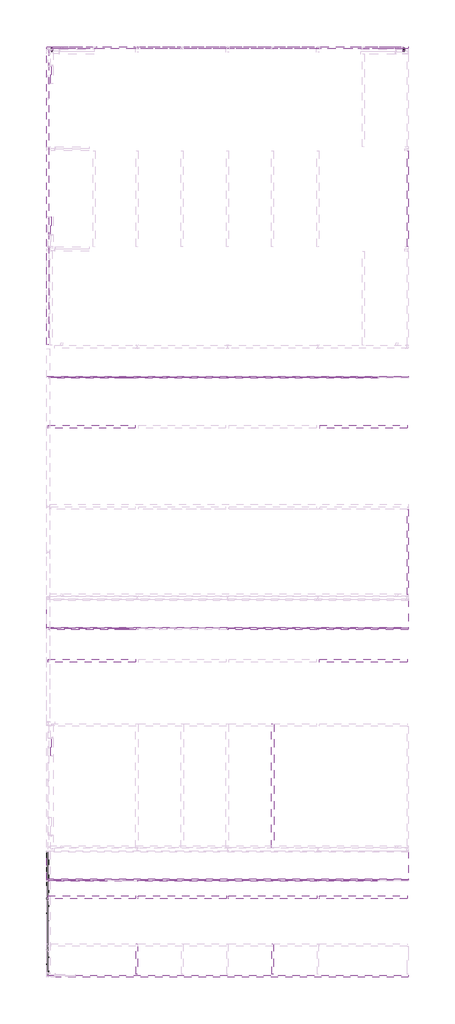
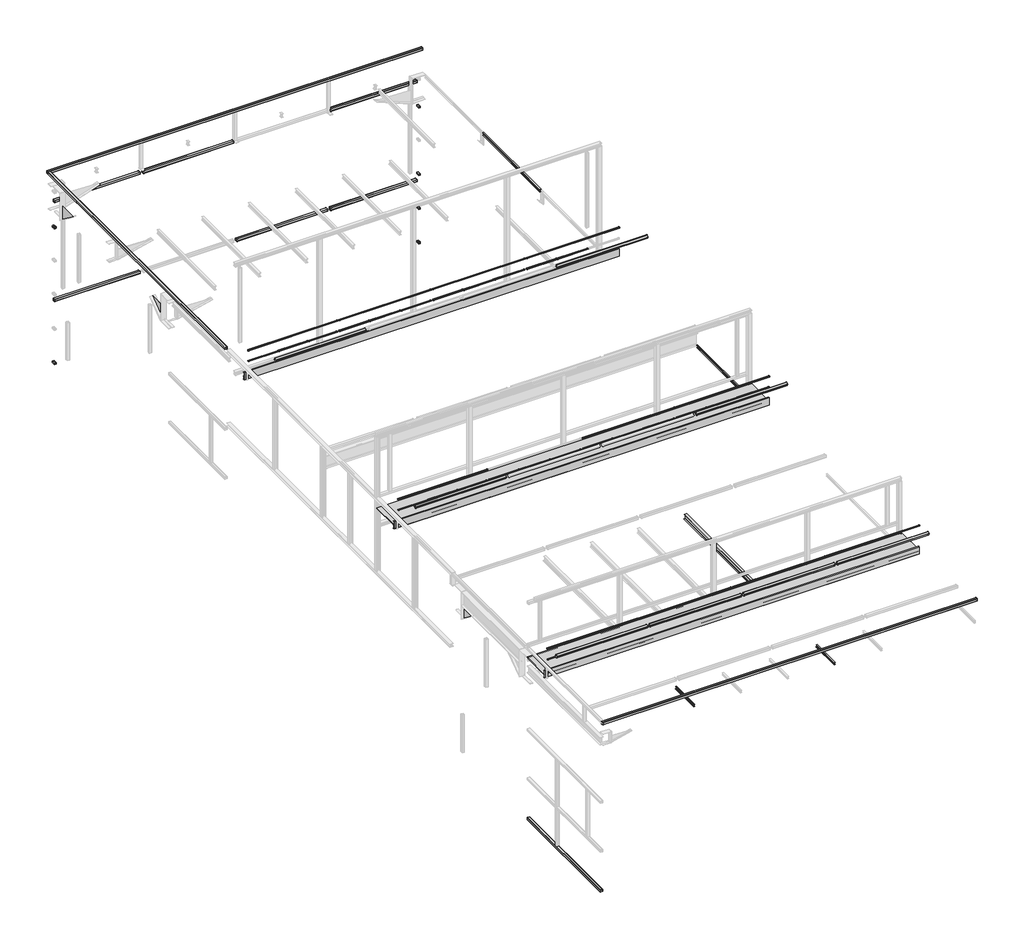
# One storey, part 2 of 3: 84 beams.
"""IFC4 building model written with IfcOpenShell, lengths in millimetres."""

from ifc_helpers import new_model, si_unit, origin, place, context, project, spatial, transform, mapped, element, save
from components import beam_8d1f7939, beam_f081dd8b, beam_00c90e81, beam_52587db2, beam_3c5574f7, beam_9d30ba23, beam_bcc38eae, beam_3ef0ea6d, beam_33f13721, beam_90fe456c, beam_c4069fb1, beam_5e6e5a75, beam_ceff8ac1, beam_697c9d13, beam_6ba09a8e, beam_d5a7796e, beam_9e802669, beam_19b4b193, beam_e0c5ccff, beam_a21e0780, beam_6ff974c0, beam_2da98b8c, beam_9f132adf, beam_f5f7d51a, beam_622f740f, beam_ca8ddc8e, beam_1cf54445, beam_9c2aa71d, beam_e8c89f98, beam_a0843e49, beam_48dc5296, beam_a76aa42f, beam_a7fee71c, lisse_137119_lisse_137119_684511ae, lisse_147336_lisse_147336_a30cddbf, lisse_150913_lisse_150913_6b22b6c6, lisse_154798_lisse_154798_789d9ca1, lisse_161773_lisse_161773_46e09ef6, lisse_167749_lisse_167749_6ca213e3, lisse_175470_lisse_175470_d40fd8f1, main_courante_102739_main_courante_102739_ed40c3bb, main_courante_103459_main_courante_103459_5b2239d3, main_courante_104179_main_courante_104179_2a7896ee, main_courante_106497_main_courante_106497_5a7e78d0, main_courante_107846_main_courante_107846_ca8920af, main_courante_111581_main_courante_111581_bf0b8dc7, main_courante_112658_main_courante_112658_0cbb24a0, main_courante_114007_main_courante_114007_b38bcc6f, main_courante_116886_main_courante_116886_96e47c2b, main_courante_117606_main_courante_117606_9041653b, main_courante_119182_main_courante_119182_d67acb24, main_courante_120758_main_courante_120758_3dafa615, main_courante_122277_main_courante_122277_c7d23ae7, main_courante_124136_main_courante_124136_9aaa94e9, main_courante_124856_main_courante_124856_ec8ec56a, main_courante_125576_main_courante_125576_99327f67, main_courante_126653_main_courante_126653_25b81309, main_courante_128631_main_courante_128631_6130c191, main_courante_129351_main_courante_129351_a9303f10, main_courante_130071_main_courante_130071_77d759bd, main_courante_131919_main_courante_131919_cccd8bc6, main_courante_132809_main_courante_132809_a57e08fc, main_courante_133529_main_courante_133529_69ff0020, main_courante_135269_main_courante_135269_6928d659, main_courante_69063_main_courante_69063_7cb552a2, main_courante_70327_main_courante_70327_6c495c5d, main_courante_72135_main_courante_72135_73440e9b, main_courante_73127_main_courante_73127_70c79c41, main_courante_74119_main_courante_74119_2d6b85a2, main_courante_75967_main_courante_75967_3d3f35de, main_courante_76840_main_courante_76840_90c7b925, main_courante_78104_main_courante_78104_3e1761f4, main_courante_78824_main_courante_78824_5afea3ef, main_courante_80757_main_courante_80757_1e9869e7, main_courante_81477_main_courante_81477_c8573a09, main_courante_82826_main_courante_82826_9067a228, main_courante_83546_main_courante_83546_907d9709, main_courante_85609_main_courante_85609_dbe0c0d3, main_courante_86329_main_courante_86329_4c8f75e1, main_courante_91005_main_courante_91005_c8c57120, main_courante_93210_main_courante_93210_54ef18eb, main_courante_94202_main_courante_94202_9cc526ed, main_courante_97353_main_courante_97353_180c7f68, main_courante_99558_main_courante_99558_ac463c1f

model = new_model("IFC4")

# Units and contexts
model_context = context("Model", 3, world=origin())
ifc_project = project(units=[si_unit("LENGTHUNIT", "METRE", prefix="MILLI")], contexts=[model_context])

# Site, building, storey
site = spatial("IfcSite", under=ifc_project)
building = spatial("IfcBuilding", under=site)
storey = spatial("IfcBuildingStorey", under=building, Name="__", Elevation=10.0)

# Beams
placement = place(None, origin())
beam_shape = beam_8d1f7939(model_context)
element("IfcBeam", 1, ObjectType="Caillebotis 70429 : Caillebotis 70429", at=placement, inside=storey, context=model_context, shape_type="MappedRepresentation", body=[
    mapped(beam_shape, transform((0.0, 0.0, 0.0), x_axis=(1.0, 0.0, 0.0), y_axis=(0.0, 1.0, 0.0), z_axis=(0.0, 0.0, 1.0))),
])
beam_2_shape = beam_f081dd8b(model_context)
element("IfcBeam", 2, ObjectType=" 76120 :  76120", at=placement, inside=storey, context=model_context, shape_type="MappedRepresentation", body=[
    mapped(beam_2_shape, transform((0.0, 0.0, 0.0), x_axis=(1.0, 0.0, 0.0), y_axis=(0.0, 1.0, 0.0), z_axis=(0.0, 0.0, 1.0))),
])
beam_3_shape = beam_00c90e81(model_context)
element("IfcBeam", 3, ObjectType=" 89469 :  89469", at=placement, inside=storey, context=model_context, shape_type="MappedRepresentation", body=[
    mapped(beam_3_shape, transform((0.0, 0.0, 0.0), x_axis=(1.0, 0.0, 0.0), y_axis=(0.0, 1.0, 0.0), z_axis=(0.0, 0.0, 1.0))),
])
beam_4_shape = beam_52587db2(model_context)
element("IfcBeam", 4, ObjectType="Caillebotis 95290 : Caillebotis 95290", at=placement, inside=storey, context=model_context, shape_type="MappedRepresentation", body=[
    mapped(beam_4_shape, transform((0.0, 0.0, 0.0), x_axis=(1.0, 0.0, 0.0), y_axis=(0.0, 1.0, 0.0), z_axis=(0.0, 0.0, 1.0))),
])
beam_5_shape = beam_3c5574f7(model_context)
element("IfcBeam", 5, ObjectType=" 105777 :  105777", at=placement, inside=storey, context=model_context, shape_type="MappedRepresentation", body=[
    mapped(beam_5_shape, transform((0.0, 0.0, 0.0), x_axis=(1.0, 0.0, 0.0), y_axis=(0.0, 1.0, 0.0), z_axis=(0.0, 0.0, 1.0))),
])
beam_6_shape = beam_9d30ba23(model_context)
element("IfcBeam", 6, ObjectType=" 121557 :  121557", at=placement, inside=storey, context=model_context, shape_type="MappedRepresentation", body=[
    mapped(beam_6_shape, transform((0.0, 0.0, 0.0), x_axis=(1.0, 0.0, 0.0), y_axis=(0.0, 1.0, 0.0), z_axis=(0.0, 0.0, 1.0))),
])
beam_7_shape = beam_bcc38eae(model_context)
element("IfcBeam", 7, ObjectType=" 123416 :  123416", at=placement, inside=storey, context=model_context, shape_type="MappedRepresentation", body=[
    mapped(beam_7_shape, transform((0.0, 0.0, 0.0), x_axis=(1.0, 0.0, 0.0), y_axis=(0.0, 1.0, 0.0), z_axis=(0.0, 0.0, 1.0))),
])
beam_8_shape = beam_3ef0ea6d(model_context)
element("IfcBeam", 8, ObjectType=" 132089 :  132089", at=placement, inside=storey, context=model_context, shape_type="MappedRepresentation", body=[
    mapped(beam_8_shape, transform((0.0, 0.0, 0.0), x_axis=(1.0, 0.0, 0.0), y_axis=(0.0, 1.0, 0.0), z_axis=(0.0, 0.0, 1.0))),
])
beam_9_shape = beam_33f13721(model_context)
element("IfcBeam", 9, ObjectType=" 135356 :  135356", at=placement, inside=storey, context=model_context, shape_type="MappedRepresentation", body=[
    mapped(beam_9_shape, transform((0.0, 0.0, 0.0), x_axis=(1.0, 0.0, 0.0), y_axis=(0.0, 1.0, 0.0), z_axis=(0.0, 0.0, 1.0))),
])
beam_10_shape = beam_90fe456c(model_context)
element("IfcBeam", 10, ObjectType="Buton 136212 : Buton 136212", at=placement, inside=storey, context=model_context, shape_type="MappedRepresentation", body=[
    mapped(beam_10_shape, transform((0.0, 0.0, 0.0), x_axis=(1.0, 0.0, 0.0), y_axis=(0.0, 1.0, 0.0), z_axis=(0.0, 0.0, 1.0))),
])
beam_11_shape = beam_c4069fb1(model_context)
element("IfcBeam", 11, ObjectType="Buton 141550 : Buton 141550", at=placement, inside=storey, context=model_context, shape_type="MappedRepresentation", body=[
    mapped(beam_11_shape, transform((0.0, 0.0, 0.0), x_axis=(1.0, 0.0, 0.0), y_axis=(0.0, 1.0, 0.0), z_axis=(0.0, 0.0, 1.0))),
])
beam_12_shape = beam_5e6e5a75(model_context)
element("IfcBeam", 12, ObjectType=" 142134 :  142134", at=placement, inside=storey, context=model_context, shape_type="MappedRepresentation", body=[
    mapped(beam_12_shape, transform((0.0, 0.0, 0.0), x_axis=(1.0, 0.0, 0.0), y_axis=(0.0, 1.0, 0.0), z_axis=(0.0, 0.0, 1.0))),
])
beam_13_shape = beam_ceff8ac1(model_context)
element("IfcBeam", 13, ObjectType="Buton 146752 : Buton 146752", at=placement, inside=storey, context=model_context, shape_type="MappedRepresentation", body=[
    mapped(beam_13_shape, transform((0.0, 0.0, 0.0), x_axis=(1.0, 0.0, 0.0), y_axis=(0.0, 1.0, 0.0), z_axis=(0.0, 0.0, 1.0))),
])
beam_14_shape = beam_697c9d13(model_context)
element("IfcBeam", 14, ObjectType="Buton 148855 : Buton 148855", at=placement, inside=storey, context=model_context, shape_type="MappedRepresentation", body=[
    mapped(beam_14_shape, transform((0.0, 0.0, 0.0), x_axis=(1.0, 0.0, 0.0), y_axis=(0.0, 1.0, 0.0), z_axis=(0.0, 0.0, 1.0))),
])
beam_15_shape = beam_6ba09a8e(model_context)
element("IfcBeam", 15, ObjectType=" 149439 :  149439", at=placement, inside=storey, context=model_context, shape_type="MappedRepresentation", body=[
    mapped(beam_15_shape, transform((0.0, 0.0, 0.0), x_axis=(1.0, 0.0, 0.0), y_axis=(0.0, 1.0, 0.0), z_axis=(0.0, 0.0, 1.0))),
])
beam_16_shape = beam_d5a7796e(model_context)
element("IfcBeam", 16, ObjectType="Lisse acrot?re 150023 : Lisse acrot?re 150023", at=placement, inside=storey, context=model_context, shape_type="MappedRepresentation", body=[
    mapped(beam_16_shape, transform((0.0, 0.0, 0.0), x_axis=(1.0, 0.0, 0.0), y_axis=(0.0, 1.0, 0.0), z_axis=(0.0, 0.0, 1.0))),
])
beam_17_shape = beam_9e802669(model_context)
element("IfcBeam", 17, ObjectType="Panne 150329 : Panne 150329", at=placement, inside=storey, context=model_context, shape_type="MappedRepresentation", body=[
    mapped(beam_17_shape, transform((0.0, 0.0, 0.0), x_axis=(1.0, 0.0, 0.0), y_axis=(0.0, 1.0, 0.0), z_axis=(0.0, 0.0, 1.0))),
])
beam_18_shape = beam_19b4b193(model_context)
element("IfcBeam", 18, ObjectType="Panne 155892 : Panne 155892", at=placement, inside=storey, context=model_context, shape_type="MappedRepresentation", body=[
    mapped(beam_18_shape, transform((0.0, 0.0, 0.0), x_axis=(1.0, 0.0, 0.0), y_axis=(0.0, 1.0, 0.0), z_axis=(0.0, 0.0, 1.0))),
])
beam_19_shape = beam_e0c5ccff(model_context)
element("IfcBeam", 19, ObjectType="Lisse acrot?re 156680 : Lisse acrot?re 156680", at=placement, inside=storey, context=model_context, shape_type="MappedRepresentation", body=[
    mapped(beam_19_shape, transform((0.0, 0.0, 0.0), x_axis=(1.0, 0.0, 0.0), y_axis=(0.0, 1.0, 0.0), z_axis=(0.0, 0.0, 1.0))),
])
beam_20_shape = beam_a21e0780(model_context)
element("IfcBeam", 20, ObjectType="Buton 157536 : Buton 157536", at=placement, inside=storey, context=model_context, shape_type="MappedRepresentation", body=[
    mapped(beam_20_shape, transform((0.0, 0.0, 0.0), x_axis=(1.0, 0.0, 0.0), y_axis=(0.0, 1.0, 0.0), z_axis=(0.0, 0.0, 1.0))),
])
beam_21_shape = beam_6ff974c0(model_context)
element("IfcBeam", 21, ObjectType="Buton 158392 : Buton 158392", at=placement, inside=storey, context=model_context, shape_type="MappedRepresentation", body=[
    mapped(beam_21_shape, transform((0.0, 0.0, 0.0), x_axis=(1.0, 0.0, 0.0), y_axis=(0.0, 1.0, 0.0), z_axis=(0.0, 0.0, 1.0))),
])
beam_22_shape = beam_2da98b8c(model_context)
element("IfcBeam", 22, ObjectType=" 158976 :  158976", at=placement, inside=storey, context=model_context, shape_type="MappedRepresentation", body=[
    mapped(beam_22_shape, transform((0.0, 0.0, 0.0), x_axis=(1.0, 0.0, 0.0), y_axis=(0.0, 1.0, 0.0), z_axis=(0.0, 0.0, 1.0))),
])
beam_23_shape = beam_9f132adf(model_context)
element("IfcBeam", 23, ObjectType=" 159061 :  159061", at=placement, inside=storey, context=model_context, shape_type="MappedRepresentation", body=[
    mapped(beam_23_shape, transform((0.0, 0.0, 0.0), x_axis=(1.0, 0.0, 0.0), y_axis=(0.0, 1.0, 0.0), z_axis=(0.0, 0.0, 1.0))),
])
beam_24_shape = beam_f5f7d51a(model_context)
element("IfcBeam", 24, ObjectType="Murailli?re 162657 : Murailli?re 162657", at=placement, inside=storey, context=model_context, shape_type="MappedRepresentation", body=[
    mapped(beam_24_shape, transform((0.0, 0.0, 0.0), x_axis=(1.0, 0.0, 0.0), y_axis=(0.0, 1.0, 0.0), z_axis=(0.0, 0.0, 1.0))),
])
beam_25_shape = beam_622f740f(model_context)
element("IfcBeam", 25, ObjectType="Buton 164641 : Buton 164641", at=placement, inside=storey, context=model_context, shape_type="MappedRepresentation", body=[
    mapped(beam_25_shape, transform((0.0, 0.0, 0.0), x_axis=(1.0, 0.0, 0.0), y_axis=(0.0, 1.0, 0.0), z_axis=(0.0, 0.0, 1.0))),
])
beam_26_shape = beam_ca8ddc8e(model_context)
element("IfcBeam", 26, ObjectType=" 165582 :  165582", at=placement, inside=storey, context=model_context, shape_type="MappedRepresentation", body=[
    mapped(beam_26_shape, transform((0.0, 0.0, 0.0), x_axis=(1.0, 0.0, 0.0), y_axis=(0.0, 1.0, 0.0), z_axis=(0.0, 0.0, 1.0))),
])
beam_27_shape = beam_1cf54445(model_context)
element("IfcBeam", 27, ObjectType=" 167165 :  167165", at=placement, inside=storey, context=model_context, shape_type="MappedRepresentation", body=[
    mapped(beam_27_shape, transform((0.0, 0.0, 0.0), x_axis=(1.0, 0.0, 0.0), y_axis=(0.0, 1.0, 0.0), z_axis=(0.0, 0.0, 1.0))),
])
beam_28_shape = beam_9c2aa71d(model_context)
element("IfcBeam", 28, ObjectType="Lisse acrot?re 168520 : Lisse acrot?re 168520", at=placement, inside=storey, context=model_context, shape_type="MappedRepresentation", body=[
    mapped(beam_28_shape, transform((0.0, 0.0, 0.0), x_axis=(1.0, 0.0, 0.0), y_axis=(0.0, 1.0, 0.0), z_axis=(0.0, 0.0, 1.0))),
])
beam_29_shape = beam_e8c89f98(model_context)
element("IfcBeam", 29, ObjectType=" 169104 :  169104", at=placement, inside=storey, context=model_context, shape_type="MappedRepresentation", body=[
    mapped(beam_29_shape, transform((0.0, 0.0, 0.0), x_axis=(1.0, 0.0, 0.0), y_axis=(0.0, 1.0, 0.0), z_axis=(0.0, 0.0, 1.0))),
])
beam_30_shape = beam_a0843e49(model_context)
element("IfcBeam", 30, ObjectType=" 173248 :  173248", at=placement, inside=storey, context=model_context, shape_type="MappedRepresentation", body=[
    mapped(beam_30_shape, transform((0.0, 0.0, 0.0), x_axis=(1.0, 0.0, 0.0), y_axis=(0.0, 1.0, 0.0), z_axis=(0.0, 0.0, 1.0))),
])
beam_31_shape = beam_48dc5296(model_context)
element("IfcBeam", 31, ObjectType="Buton 174104 : Buton 174104", at=placement, inside=storey, context=model_context, shape_type="MappedRepresentation", body=[
    mapped(beam_31_shape, transform((0.0, 0.0, 0.0), x_axis=(1.0, 0.0, 0.0), y_axis=(0.0, 1.0, 0.0), z_axis=(0.0, 0.0, 1.0))),
])
beam_32_shape = beam_a76aa42f(model_context)
element("IfcBeam", 32, ObjectType="Panne 174410 : Panne 174410", at=placement, inside=storey, context=model_context, shape_type="MappedRepresentation", body=[
    mapped(beam_32_shape, transform((0.0, 0.0, 0.0), x_axis=(1.0, 0.0, 0.0), y_axis=(0.0, 1.0, 0.0), z_axis=(0.0, 0.0, 1.0))),
])
beam_33_shape = beam_a7fee71c(model_context)
element("IfcBeam", 33, ObjectType="Murailli?re 174801 : Murailli?re 174801", at=placement, inside=storey, context=model_context, shape_type="MappedRepresentation", body=[
    mapped(beam_33_shape, transform((0.0, 0.0, 0.0), x_axis=(1.0, 0.0, 0.0), y_axis=(0.0, 1.0, 0.0), z_axis=(0.0, 0.0, 1.0))),
])
lisse_137119_lisse_137119_shape = lisse_137119_lisse_137119_684511ae(model_context)
element("IfcBeam", 34, ObjectType="Lisse 137119 : Lisse 137119", at=placement, inside=storey, context=model_context, shape_type="MappedRepresentation", body=[
    mapped(lisse_137119_lisse_137119_shape, transform((0.0, 0.0, -350.0), x_axis=(1.0, 0.0, 0.0), y_axis=(0.0, 1.0, 0.0), z_axis=(0.0, 0.0, 1.0))),
])
lisse_147336_lisse_147336_shape = lisse_147336_lisse_147336_a30cddbf(model_context)
element("IfcBeam", 35, ObjectType="Lisse 147336 : Lisse 147336", at=placement, inside=storey, context=model_context, shape_type="MappedRepresentation", body=[
    mapped(lisse_147336_lisse_147336_shape, transform((0.0, 0.0, 0.0), x_axis=(1.0, 0.0, 0.0), y_axis=(0.0, 1.0, 0.0), z_axis=(0.0, 0.0, 1.0))),
])
lisse_150913_lisse_150913_shape = lisse_150913_lisse_150913_6b22b6c6(model_context)
element("IfcBeam", 36, ObjectType="Lisse 150913 : Lisse 150913", at=placement, inside=storey, context=model_context, shape_type="MappedRepresentation", body=[
    mapped(lisse_150913_lisse_150913_shape, transform((0.0, 0.0, -350.0), x_axis=(1.0, 0.0, 0.0), y_axis=(0.0, 1.0, 0.0), z_axis=(0.0, 0.0, 1.0))),
])
lisse_154798_lisse_154798_shape = lisse_154798_lisse_154798_789d9ca1(model_context)
element("IfcBeam", 37, ObjectType="Lisse 154798 : Lisse 154798", at=placement, inside=storey, context=model_context, shape_type="MappedRepresentation", body=[
    mapped(lisse_154798_lisse_154798_shape, transform((0.0, 0.0, 0.0), x_axis=(1.0, 0.0, 0.0), y_axis=(0.0, 1.0, 0.0), z_axis=(0.0, 0.0, 1.0))),
])
lisse_161773_lisse_161773_shape = lisse_161773_lisse_161773_46e09ef6(model_context)
element("IfcBeam", 38, ObjectType="Lisse 161773 : Lisse 161773", at=placement, inside=storey, context=model_context, shape_type="MappedRepresentation", body=[
    mapped(lisse_161773_lisse_161773_shape, transform((0.0, 0.0, 0.0), x_axis=(1.0, 0.0, 0.0), y_axis=(0.0, 1.0, 0.0), z_axis=(0.0, 0.0, 1.0))),
])
lisse_167749_lisse_167749_shape = lisse_167749_lisse_167749_6ca213e3(model_context)
element("IfcBeam", 39, ObjectType="Lisse 167749 : Lisse 167749", at=placement, inside=storey, context=model_context, shape_type="MappedRepresentation", body=[
    mapped(lisse_167749_lisse_167749_shape, transform((0.0, 0.0, -350.0), x_axis=(1.0, 0.0, 0.0), y_axis=(0.0, 1.0, 0.0), z_axis=(0.0, 0.0, 1.0))),
])
lisse_175470_lisse_175470_shape = lisse_175470_lisse_175470_d40fd8f1(model_context)
element("IfcBeam", 40, ObjectType="Lisse 175470 : Lisse 175470", at=placement, inside=storey, context=model_context, shape_type="MappedRepresentation", body=[
    mapped(lisse_175470_lisse_175470_shape, transform((0.0, 0.0, 0.0), x_axis=(1.0, 0.0, 0.0), y_axis=(0.0, 1.0, 0.0), z_axis=(0.0, 0.0, 1.0))),
])
main_courante_102739_main_courante_102739_shape = main_courante_102739_main_courante_102739_ed40c3bb(model_context)
element("IfcBeam", 41, ObjectType="Main courante 102739 : Main courante 102739", at=placement, inside=storey, context=model_context, shape_type="MappedRepresentation", body=[
    mapped(main_courante_102739_main_courante_102739_shape, transform((0.0, 0.0, 0.0), x_axis=(1.0, 0.0, 0.0), y_axis=(0.0, 1.0, 0.0), z_axis=(0.0, 0.0, 1.0))),
])
main_courante_103459_main_courante_103459_shape = main_courante_103459_main_courante_103459_5b2239d3(model_context)
element("IfcBeam", 42, ObjectType="Main courante 103459 : Main courante 103459", at=placement, inside=storey, context=model_context, shape_type="MappedRepresentation", body=[
    mapped(main_courante_103459_main_courante_103459_shape, transform((0.0, 0.0, 0.0), x_axis=(1.0, 0.0, 0.0), y_axis=(0.0, 1.0, 0.0), z_axis=(0.0, 0.0, 1.0))),
])
main_courante_104179_main_courante_104179_shape = main_courante_104179_main_courante_104179_2a7896ee(model_context)
element("IfcBeam", 43, ObjectType="Main courante 104179 : Main courante 104179", at=placement, inside=storey, context=model_context, shape_type="MappedRepresentation", body=[
    mapped(main_courante_104179_main_courante_104179_shape, transform((0.0, 0.0, 0.0), x_axis=(1.0, 0.0, 0.0), y_axis=(0.0, 1.0, 0.0), z_axis=(0.0, 0.0, 1.0))),
])
main_courante_106497_main_courante_106497_shape = main_courante_106497_main_courante_106497_5a7e78d0(model_context)
element("IfcBeam", 44, ObjectType="Main courante 106497 : Main courante 106497", at=placement, inside=storey, context=model_context, shape_type="MappedRepresentation", body=[
    mapped(main_courante_106497_main_courante_106497_shape, transform((0.0, 0.0, 0.0), x_axis=(1.0, 0.0, 0.0), y_axis=(0.0, 1.0, 0.0), z_axis=(0.0, 0.0, 1.0))),
])
main_courante_107846_main_courante_107846_shape = main_courante_107846_main_courante_107846_ca8920af(model_context)
element("IfcBeam", 45, ObjectType="Main courante 107846 : Main courante 107846", at=placement, inside=storey, context=model_context, shape_type="MappedRepresentation", body=[
    mapped(main_courante_107846_main_courante_107846_shape, transform((0.0, 0.0, 0.0), x_axis=(1.0, 0.0, 0.0), y_axis=(0.0, 1.0, 0.0), z_axis=(0.0, 0.0, 1.0))),
])
main_courante_111581_main_courante_111581_shape = main_courante_111581_main_courante_111581_bf0b8dc7(model_context)
element("IfcBeam", 46, ObjectType="Main courante 111581 : Main courante 111581", at=placement, inside=storey, context=model_context, shape_type="MappedRepresentation", body=[
    mapped(main_courante_111581_main_courante_111581_shape, transform((0.0, 0.0, 0.0), x_axis=(1.0, 0.0, 0.0), y_axis=(0.0, 1.0, 0.0), z_axis=(0.0, 0.0, 1.0))),
])
main_courante_112658_main_courante_112658_shape = main_courante_112658_main_courante_112658_0cbb24a0(model_context)
element("IfcBeam", 47, ObjectType="Main courante 112658 : Main courante 112658", at=placement, inside=storey, context=model_context, shape_type="MappedRepresentation", body=[
    mapped(main_courante_112658_main_courante_112658_shape, transform((0.0, 0.0, 0.0), x_axis=(1.0, 0.0, 0.0), y_axis=(0.0, 1.0, 0.0), z_axis=(0.0, 0.0, 1.0))),
])
main_courante_114007_main_courante_114007_shape = main_courante_114007_main_courante_114007_b38bcc6f(model_context)
element("IfcBeam", 48, ObjectType="Main courante 114007 : Main courante 114007", at=placement, inside=storey, context=model_context, shape_type="MappedRepresentation", body=[
    mapped(main_courante_114007_main_courante_114007_shape, transform((0.0, 0.0, 0.0), x_axis=(1.0, 0.0, 0.0), y_axis=(0.0, 1.0, 0.0), z_axis=(0.0, 0.0, 1.0))),
])
main_courante_116886_main_courante_116886_shape = main_courante_116886_main_courante_116886_96e47c2b(model_context)
element("IfcBeam", 49, ObjectType="Main courante 116886 : Main courante 116886", at=placement, inside=storey, context=model_context, shape_type="MappedRepresentation", body=[
    mapped(main_courante_116886_main_courante_116886_shape, transform((0.0, 0.0, 0.0), x_axis=(1.0, 0.0, 0.0), y_axis=(0.0, 1.0, 0.0), z_axis=(0.0, 0.0, 1.0))),
])
main_courante_117606_main_courante_117606_shape = main_courante_117606_main_courante_117606_9041653b(model_context)
element("IfcBeam", 50, ObjectType="Main courante 117606 : Main courante 117606", at=placement, inside=storey, context=model_context, shape_type="MappedRepresentation", body=[
    mapped(main_courante_117606_main_courante_117606_shape, transform((0.0, 0.0, 0.0), x_axis=(1.0, 0.0, 0.0), y_axis=(0.0, 1.0, 0.0), z_axis=(0.0, 0.0, 1.0))),
])
main_courante_119182_main_courante_119182_shape = main_courante_119182_main_courante_119182_d67acb24(model_context)
element("IfcBeam", 51, ObjectType="Main courante 119182 : Main courante 119182", at=placement, inside=storey, context=model_context, shape_type="MappedRepresentation", body=[
    mapped(main_courante_119182_main_courante_119182_shape, transform((0.0, 0.0, 0.0), x_axis=(1.0, 0.0, 0.0), y_axis=(0.0, 1.0, 0.0), z_axis=(0.0, 0.0, 1.0))),
])
main_courante_120758_main_courante_120758_shape = main_courante_120758_main_courante_120758_3dafa615(model_context)
element("IfcBeam", 52, ObjectType="Main courante 120758 : Main courante 120758", at=placement, inside=storey, context=model_context, shape_type="MappedRepresentation", body=[
    mapped(main_courante_120758_main_courante_120758_shape, transform((0.0, 0.0, 0.0), x_axis=(1.0, 0.0, 0.0), y_axis=(0.0, 1.0, 0.0), z_axis=(0.0, 0.0, 1.0))),
])
main_courante_122277_main_courante_122277_shape = main_courante_122277_main_courante_122277_c7d23ae7(model_context)
element("IfcBeam", 53, ObjectType="Main courante 122277 : Main courante 122277", at=placement, inside=storey, context=model_context, shape_type="MappedRepresentation", body=[
    mapped(main_courante_122277_main_courante_122277_shape, transform((0.0, 0.0, 0.0), x_axis=(1.0, 0.0, 0.0), y_axis=(0.0, 1.0, 0.0), z_axis=(0.0, 0.0, 1.0))),
])
main_courante_124136_main_courante_124136_shape = main_courante_124136_main_courante_124136_9aaa94e9(model_context)
element("IfcBeam", 54, ObjectType="Main courante 124136 : Main courante 124136", at=placement, inside=storey, context=model_context, shape_type="MappedRepresentation", body=[
    mapped(main_courante_124136_main_courante_124136_shape, transform((0.0, 0.0, 0.0), x_axis=(1.0, 0.0, 0.0), y_axis=(0.0, 1.0, 0.0), z_axis=(0.0, 0.0, 1.0))),
])
main_courante_124856_main_courante_124856_shape = main_courante_124856_main_courante_124856_ec8ec56a(model_context)
element("IfcBeam", 55, ObjectType="Main courante 124856 : Main courante 124856", at=placement, inside=storey, context=model_context, shape_type="MappedRepresentation", body=[
    mapped(main_courante_124856_main_courante_124856_shape, transform((0.0, 0.0, 0.0), x_axis=(1.0, 0.0, 0.0), y_axis=(0.0, 1.0, 0.0), z_axis=(0.0, 0.0, 1.0))),
])
main_courante_125576_main_courante_125576_shape = main_courante_125576_main_courante_125576_99327f67(model_context)
element("IfcBeam", 56, ObjectType="Main courante 125576 : Main courante 125576", at=placement, inside=storey, context=model_context, shape_type="MappedRepresentation", body=[
    mapped(main_courante_125576_main_courante_125576_shape, transform((0.0, 0.0, 0.0), x_axis=(1.0, 0.0, 0.0), y_axis=(0.0, 1.0, 0.0), z_axis=(0.0, 0.0, 1.0))),
])
main_courante_126653_main_courante_126653_shape = main_courante_126653_main_courante_126653_25b81309(model_context)
element("IfcBeam", 57, ObjectType="Main courante 126653 : Main courante 126653", at=placement, inside=storey, context=model_context, shape_type="MappedRepresentation", body=[
    mapped(main_courante_126653_main_courante_126653_shape, transform((0.0, 0.0, 0.0), x_axis=(1.0, 0.0, 0.0), y_axis=(0.0, 1.0, 0.0), z_axis=(0.0, 0.0, 1.0))),
])
main_courante_128631_main_courante_128631_shape = main_courante_128631_main_courante_128631_6130c191(model_context)
element("IfcBeam", 58, ObjectType="Main courante 128631 : Main courante 128631", at=placement, inside=storey, context=model_context, shape_type="MappedRepresentation", body=[
    mapped(main_courante_128631_main_courante_128631_shape, transform((0.0, 0.0, 0.0), x_axis=(1.0, 0.0, 0.0), y_axis=(0.0, 1.0, 0.0), z_axis=(0.0, 0.0, 1.0))),
])
main_courante_129351_main_courante_129351_shape = main_courante_129351_main_courante_129351_a9303f10(model_context)
element("IfcBeam", 59, ObjectType="Main courante 129351 : Main courante 129351", at=placement, inside=storey, context=model_context, shape_type="MappedRepresentation", body=[
    mapped(main_courante_129351_main_courante_129351_shape, transform((0.0, 0.0, 0.0), x_axis=(1.0, 0.0, 0.0), y_axis=(0.0, 1.0, 0.0), z_axis=(0.0, 0.0, 1.0))),
])
main_courante_130071_main_courante_130071_shape = main_courante_130071_main_courante_130071_77d759bd(model_context)
element("IfcBeam", 60, ObjectType="Main courante 130071 : Main courante 130071", at=placement, inside=storey, context=model_context, shape_type="MappedRepresentation", body=[
    mapped(main_courante_130071_main_courante_130071_shape, transform((0.0, 0.0, 0.0), x_axis=(1.0, 0.0, 0.0), y_axis=(0.0, 1.0, 0.0), z_axis=(0.0, 0.0, 1.0))),
])
main_courante_131919_main_courante_131919_shape = main_courante_131919_main_courante_131919_cccd8bc6(model_context)
element("IfcBeam", 61, ObjectType="Main courante 131919 : Main courante 131919", at=placement, inside=storey, context=model_context, shape_type="MappedRepresentation", body=[
    mapped(main_courante_131919_main_courante_131919_shape, transform((0.0, 0.0, 0.0), x_axis=(1.0, 0.0, 0.0), y_axis=(0.0, 1.0, 0.0), z_axis=(0.0, 0.0, 1.0))),
])
main_courante_132809_main_courante_132809_shape = main_courante_132809_main_courante_132809_a57e08fc(model_context)
element("IfcBeam", 62, ObjectType="Main courante 132809 : Main courante 132809", at=placement, inside=storey, context=model_context, shape_type="MappedRepresentation", body=[
    mapped(main_courante_132809_main_courante_132809_shape, transform((0.0, 0.0, 0.0), x_axis=(1.0, 0.0, 0.0), y_axis=(0.0, 1.0, 0.0), z_axis=(0.0, 0.0, 1.0))),
])
main_courante_133529_main_courante_133529_shape = main_courante_133529_main_courante_133529_69ff0020(model_context)
element("IfcBeam", 63, ObjectType="Main courante 133529 : Main courante 133529", at=placement, inside=storey, context=model_context, shape_type="MappedRepresentation", body=[
    mapped(main_courante_133529_main_courante_133529_shape, transform((0.0, 0.0, 0.0), x_axis=(1.0, 0.0, 0.0), y_axis=(0.0, 1.0, 0.0), z_axis=(0.0, 0.0, 1.0))),
])
main_courante_135269_main_courante_135269_shape = main_courante_135269_main_courante_135269_6928d659(model_context)
element("IfcBeam", 64, ObjectType="Main courante 135269 : Main courante 135269", at=placement, inside=storey, context=model_context, shape_type="MappedRepresentation", body=[
    mapped(main_courante_135269_main_courante_135269_shape, transform((0.0, 0.0, 0.0), x_axis=(1.0, 0.0, 0.0), y_axis=(0.0, 1.0, 0.0), z_axis=(0.0, 0.0, 1.0))),
])
main_courante_69063_main_courante_69063_shape = main_courante_69063_main_courante_69063_7cb552a2(model_context)
element("IfcBeam", 65, ObjectType="Main courante 69063 : Main courante 69063", at=placement, inside=storey, context=model_context, shape_type="MappedRepresentation", body=[
    mapped(main_courante_69063_main_courante_69063_shape, transform((0.0, 0.0, 0.0), x_axis=(1.0, 0.0, 0.0), y_axis=(0.0, 1.0, 0.0), z_axis=(0.0, 0.0, 1.0))),
])
main_courante_70327_main_courante_70327_shape = main_courante_70327_main_courante_70327_6c495c5d(model_context)
element("IfcBeam", 66, ObjectType="Main courante 70327 : Main courante 70327", at=placement, inside=storey, context=model_context, shape_type="MappedRepresentation", body=[
    mapped(main_courante_70327_main_courante_70327_shape, transform((0.0, 0.0, 0.0), x_axis=(1.0, 0.0, 0.0), y_axis=(0.0, 1.0, 0.0), z_axis=(0.0, 0.0, 1.0))),
])
main_courante_72135_main_courante_72135_shape = main_courante_72135_main_courante_72135_73440e9b(model_context)
element("IfcBeam", 67, ObjectType="Main courante 72135 : Main courante 72135", at=placement, inside=storey, context=model_context, shape_type="MappedRepresentation", body=[
    mapped(main_courante_72135_main_courante_72135_shape, transform((0.0, 0.0, 0.0), x_axis=(1.0, 0.0, 0.0), y_axis=(0.0, 1.0, 0.0), z_axis=(0.0, 0.0, 1.0))),
])
main_courante_73127_main_courante_73127_shape = main_courante_73127_main_courante_73127_70c79c41(model_context)
element("IfcBeam", 68, ObjectType="Main courante 73127 : Main courante 73127", at=placement, inside=storey, context=model_context, shape_type="MappedRepresentation", body=[
    mapped(main_courante_73127_main_courante_73127_shape, transform((0.0, 0.0, 0.0), x_axis=(1.0, 0.0, 0.0), y_axis=(0.0, 1.0, 0.0), z_axis=(0.0, 0.0, 1.0))),
])
main_courante_74119_main_courante_74119_shape = main_courante_74119_main_courante_74119_2d6b85a2(model_context)
element("IfcBeam", 69, ObjectType="Main courante 74119 : Main courante 74119", at=placement, inside=storey, context=model_context, shape_type="MappedRepresentation", body=[
    mapped(main_courante_74119_main_courante_74119_shape, transform((0.0, 0.0, 0.0), x_axis=(1.0, 0.0, 0.0), y_axis=(0.0, 1.0, 0.0), z_axis=(0.0, 0.0, 1.0))),
])
main_courante_75967_main_courante_75967_shape = main_courante_75967_main_courante_75967_3d3f35de(model_context)
element("IfcBeam", 70, ObjectType="Main courante 75967 : Main courante 75967", at=placement, inside=storey, context=model_context, shape_type="MappedRepresentation", body=[
    mapped(main_courante_75967_main_courante_75967_shape, transform((0.0, 0.0, 0.0), x_axis=(1.0, 0.0, 0.0), y_axis=(0.0, 1.0, 0.0), z_axis=(0.0, 0.0, 1.0))),
])
main_courante_76840_main_courante_76840_shape = main_courante_76840_main_courante_76840_90c7b925(model_context)
element("IfcBeam", 71, ObjectType="Main courante 76840 : Main courante 76840", at=placement, inside=storey, context=model_context, shape_type="MappedRepresentation", body=[
    mapped(main_courante_76840_main_courante_76840_shape, transform((0.0, 0.0, 0.0), x_axis=(1.0, 0.0, 0.0), y_axis=(0.0, 1.0, 0.0), z_axis=(0.0, 0.0, 1.0))),
])
main_courante_78104_main_courante_78104_shape = main_courante_78104_main_courante_78104_3e1761f4(model_context)
element("IfcBeam", 72, ObjectType="Main courante 78104 : Main courante 78104", at=placement, inside=storey, context=model_context, shape_type="MappedRepresentation", body=[
    mapped(main_courante_78104_main_courante_78104_shape, transform((0.0, 0.0, 0.0), x_axis=(1.0, 0.0, 0.0), y_axis=(0.0, 1.0, 0.0), z_axis=(0.0, 0.0, 1.0))),
])
main_courante_78824_main_courante_78824_shape = main_courante_78824_main_courante_78824_5afea3ef(model_context)
element("IfcBeam", 73, ObjectType="Main courante 78824 : Main courante 78824", at=placement, inside=storey, context=model_context, shape_type="MappedRepresentation", body=[
    mapped(main_courante_78824_main_courante_78824_shape, transform((0.0, 0.0, 0.0), x_axis=(1.0, 0.0, 0.0), y_axis=(0.0, 1.0, 0.0), z_axis=(0.0, 0.0, 1.0))),
])
main_courante_80757_main_courante_80757_shape = main_courante_80757_main_courante_80757_1e9869e7(model_context)
element("IfcBeam", 74, ObjectType="Main courante 80757 : Main courante 80757", at=placement, inside=storey, context=model_context, shape_type="MappedRepresentation", body=[
    mapped(main_courante_80757_main_courante_80757_shape, transform((0.0, 0.0, 0.0), x_axis=(1.0, 0.0, 0.0), y_axis=(0.0, 1.0, 0.0), z_axis=(0.0, 0.0, 1.0))),
])
main_courante_81477_main_courante_81477_shape = main_courante_81477_main_courante_81477_c8573a09(model_context)
element("IfcBeam", 75, ObjectType="Main courante 81477 : Main courante 81477", at=placement, inside=storey, context=model_context, shape_type="MappedRepresentation", body=[
    mapped(main_courante_81477_main_courante_81477_shape, transform((0.0, 0.0, 0.0), x_axis=(1.0, 0.0, 0.0), y_axis=(0.0, 1.0, 0.0), z_axis=(0.0, 0.0, 1.0))),
])
main_courante_82826_main_courante_82826_shape = main_courante_82826_main_courante_82826_9067a228(model_context)
element("IfcBeam", 76, ObjectType="Main courante 82826 : Main courante 82826", at=placement, inside=storey, context=model_context, shape_type="MappedRepresentation", body=[
    mapped(main_courante_82826_main_courante_82826_shape, transform((0.0, 0.0, 0.0), x_axis=(1.0, 0.0, 0.0), y_axis=(0.0, 1.0, 0.0), z_axis=(0.0, 0.0, 1.0))),
])
main_courante_83546_main_courante_83546_shape = main_courante_83546_main_courante_83546_907d9709(model_context)
element("IfcBeam", 77, ObjectType="Main courante 83546 : Main courante 83546", at=placement, inside=storey, context=model_context, shape_type="MappedRepresentation", body=[
    mapped(main_courante_83546_main_courante_83546_shape, transform((0.0, 0.0, 0.0), x_axis=(1.0, 0.0, 0.0), y_axis=(0.0, 1.0, 0.0), z_axis=(0.0, 0.0, 1.0))),
])
main_courante_85609_main_courante_85609_shape = main_courante_85609_main_courante_85609_dbe0c0d3(model_context)
element("IfcBeam", 78, ObjectType="Main courante 85609 : Main courante 85609", at=placement, inside=storey, context=model_context, shape_type="MappedRepresentation", body=[
    mapped(main_courante_85609_main_courante_85609_shape, transform((0.0, 0.0, 0.0), x_axis=(1.0, 0.0, 0.0), y_axis=(0.0, 1.0, 0.0), z_axis=(0.0, 0.0, 1.0))),
])
main_courante_86329_main_courante_86329_shape = main_courante_86329_main_courante_86329_4c8f75e1(model_context)
element("IfcBeam", 79, ObjectType="Main courante 86329 : Main courante 86329", at=placement, inside=storey, context=model_context, shape_type="MappedRepresentation", body=[
    mapped(main_courante_86329_main_courante_86329_shape, transform((0.0, 0.0, 0.0), x_axis=(1.0, 0.0, 0.0), y_axis=(0.0, 1.0, 0.0), z_axis=(0.0, 0.0, 1.0))),
])
main_courante_91005_main_courante_91005_shape = main_courante_91005_main_courante_91005_c8c57120(model_context)
element("IfcBeam", 80, ObjectType="Main courante 91005 : Main courante 91005", at=placement, inside=storey, context=model_context, shape_type="MappedRepresentation", body=[
    mapped(main_courante_91005_main_courante_91005_shape, transform((0.0, 0.0, 0.0), x_axis=(1.0, 0.0, 0.0), y_axis=(0.0, 1.0, 0.0), z_axis=(0.0, 0.0, 1.0))),
])
main_courante_93210_main_courante_93210_shape = main_courante_93210_main_courante_93210_54ef18eb(model_context)
element("IfcBeam", 81, ObjectType="Main courante 93210 : Main courante 93210", at=placement, inside=storey, context=model_context, shape_type="MappedRepresentation", body=[
    mapped(main_courante_93210_main_courante_93210_shape, transform((0.0, 0.0, 0.0), x_axis=(1.0, 0.0, 0.0), y_axis=(0.0, 1.0, 0.0), z_axis=(0.0, 0.0, 1.0))),
])
main_courante_94202_main_courante_94202_shape = main_courante_94202_main_courante_94202_9cc526ed(model_context)
element("IfcBeam", 82, ObjectType="Main courante 94202 : Main courante 94202", at=placement, inside=storey, context=model_context, shape_type="MappedRepresentation", body=[
    mapped(main_courante_94202_main_courante_94202_shape, transform((0.0, 0.0, 0.0), x_axis=(1.0, 0.0, 0.0), y_axis=(0.0, 1.0, 0.0), z_axis=(0.0, 0.0, 1.0))),
])
main_courante_97353_main_courante_97353_shape = main_courante_97353_main_courante_97353_180c7f68(model_context)
element("IfcBeam", 83, ObjectType="Main courante 97353 : Main courante 97353", at=placement, inside=storey, context=model_context, shape_type="MappedRepresentation", body=[
    mapped(main_courante_97353_main_courante_97353_shape, transform((0.0, 0.0, 0.0), x_axis=(1.0, 0.0, 0.0), y_axis=(0.0, 1.0, 0.0), z_axis=(0.0, 0.0, 1.0))),
])
main_courante_99558_main_courante_99558_shape = main_courante_99558_main_courante_99558_ac463c1f(model_context)
element("IfcBeam", 84, ObjectType="Main courante 99558 : Main courante 99558", at=placement, inside=storey, context=model_context, shape_type="MappedRepresentation", body=[
    mapped(main_courante_99558_main_courante_99558_shape, transform((0.0, 0.0, 0.0), x_axis=(1.0, 0.0, 0.0), y_axis=(0.0, 1.0, 0.0), z_axis=(0.0, 0.0, 1.0))),
])

save(model, "model.ifc")
